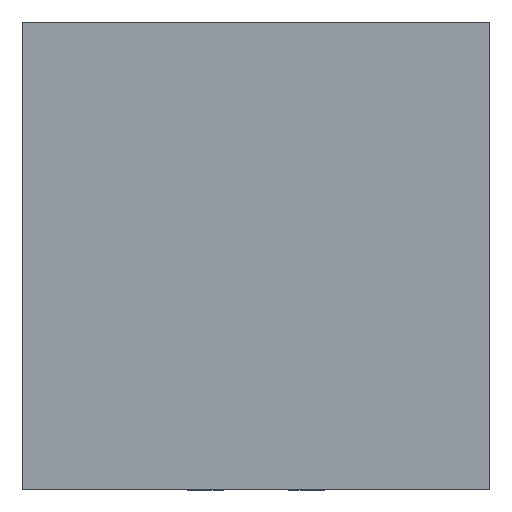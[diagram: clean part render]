
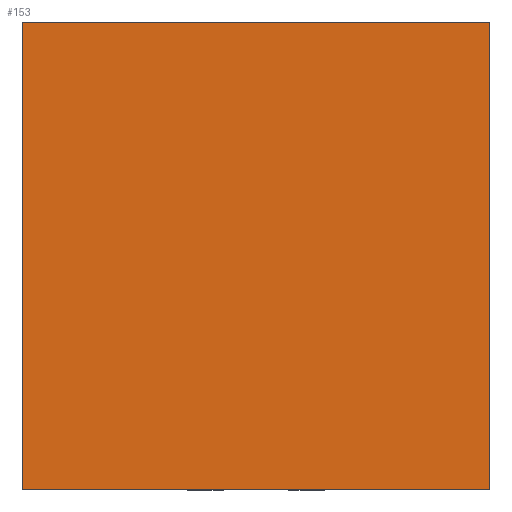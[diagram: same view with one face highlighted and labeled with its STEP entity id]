
A CAD part, top view. The second image highlights one B-rep face of the part: STEP entity #153.
In plain terms, the highlighted planar face has unit normal (0, 0, 1).
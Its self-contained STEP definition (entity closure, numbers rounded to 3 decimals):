
#24 = VERTEX_POINT('',#25);
#25 = CARTESIAN_POINT('',(-1.5,-1.5,1.));
#40 = VERTEX_POINT('',#41);
#41 = CARTESIAN_POINT('',(-1.5,1.5,1.));
#47 = EDGE_CURVE('',#24,#40,#48,.T.);
#48 = LINE('',#49,#50);
#49 = CARTESIAN_POINT('',(-1.5,-1.5,1.));
#50 = VECTOR('',#51,1.);
#51 = DIRECTION('',(0.,1.,0.));
#64 = VERTEX_POINT('',#65);
#65 = CARTESIAN_POINT('',(1.5,-1.5,1.));
#80 = VERTEX_POINT('',#81);
#81 = CARTESIAN_POINT('',(1.5,1.5,1.));
#87 = EDGE_CURVE('',#64,#80,#88,.T.);
#88 = LINE('',#89,#90);
#89 = CARTESIAN_POINT('',(1.5,-1.5,1.));
#90 = VECTOR('',#91,1.);
#91 = DIRECTION('',(0.,1.,0.));
#108 = EDGE_CURVE('',#24,#64,#109,.T.);
#109 = LINE('',#110,#111);
#110 = CARTESIAN_POINT('',(-1.5,-1.5,1.));
#111 = VECTOR('',#112,1.);
#112 = DIRECTION('',(1.,0.,0.));
#130 = EDGE_CURVE('',#40,#80,#131,.T.);
#131 = LINE('',#132,#133);
#132 = CARTESIAN_POINT('',(-1.5,1.5,1.));
#133 = VECTOR('',#134,1.);
#134 = DIRECTION('',(1.,0.,0.));
#153 = ADVANCED_FACE('',(#154),#160,.T.);
#154 = FACE_BOUND('',#155,.T.);
#155 = EDGE_LOOP('',(#156,#157,#158,#159));
#156 = ORIENTED_EDGE('',*,*,#47,.F.);
#157 = ORIENTED_EDGE('',*,*,#108,.T.);
#158 = ORIENTED_EDGE('',*,*,#87,.T.);
#159 = ORIENTED_EDGE('',*,*,#130,.F.);
#160 = PLANE('',#161);
#161 = AXIS2_PLACEMENT_3D('',#162,#163,#164);
#162 = CARTESIAN_POINT('',(-1.5,-1.5,1.));
#163 = DIRECTION('',(0.,0.,1.));
#164 = DIRECTION('',(1.,0.,0.));
